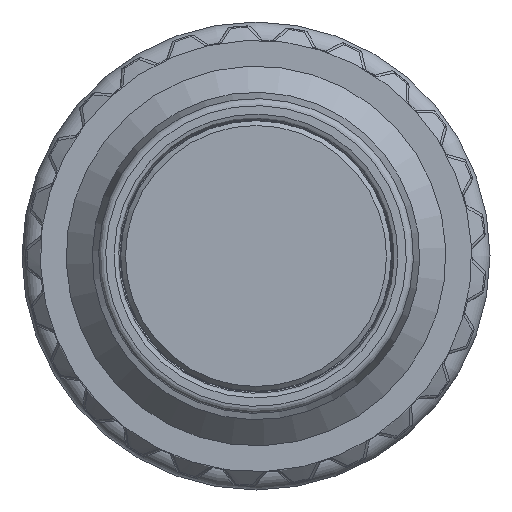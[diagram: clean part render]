
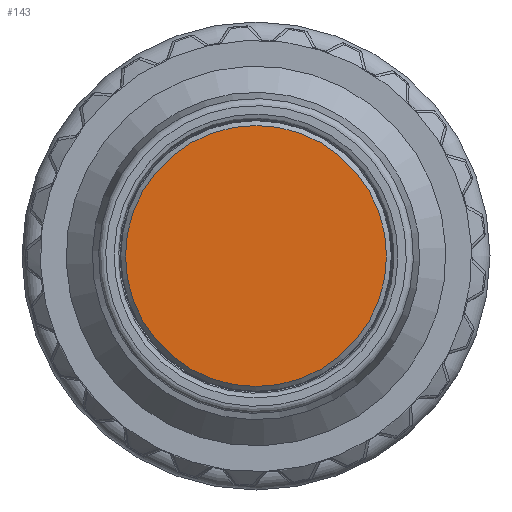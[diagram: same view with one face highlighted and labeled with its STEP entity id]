
A CAD part, left-side view. The second image highlights one B-rep face of the part: STEP entity #143.
In plain terms, the highlighted planar face has unit normal (-1, 0, 0).
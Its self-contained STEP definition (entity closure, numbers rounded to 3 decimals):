
#112=CARTESIAN_POINT('',(-3.25,2.75,0.));
#113=VERTEX_POINT('',#112);
#114=CARTESIAN_POINT('',(-3.25,0.0,0.0));
#115=DIRECTION('',(1.0,0.0,0.0));
#116=DIRECTION('',(0.0,-1.0,0.0));
#117=AXIS2_PLACEMENT_3D('',#114,#115,#116);
#118=CIRCLE('',#117,2.75);
#119=EDGE_CURVE('',#113,#113,#118,.T.);
#135=CARTESIAN_POINT('',(-3.25,1.425,0.0));
#136=DIRECTION('',(-1.0,0.0,0.0));
#137=DIRECTION('',(0.0,0.0,1.0));
#138=AXIS2_PLACEMENT_3D('',#135,#136,#137);
#139=PLANE('',#138);
#140=ORIENTED_EDGE('',*,*,#119,.F.);
#141=EDGE_LOOP('',(#140));
#142=FACE_OUTER_BOUND('',#141,.T.);
#143=ADVANCED_FACE('',(#142),#139,.T.);
